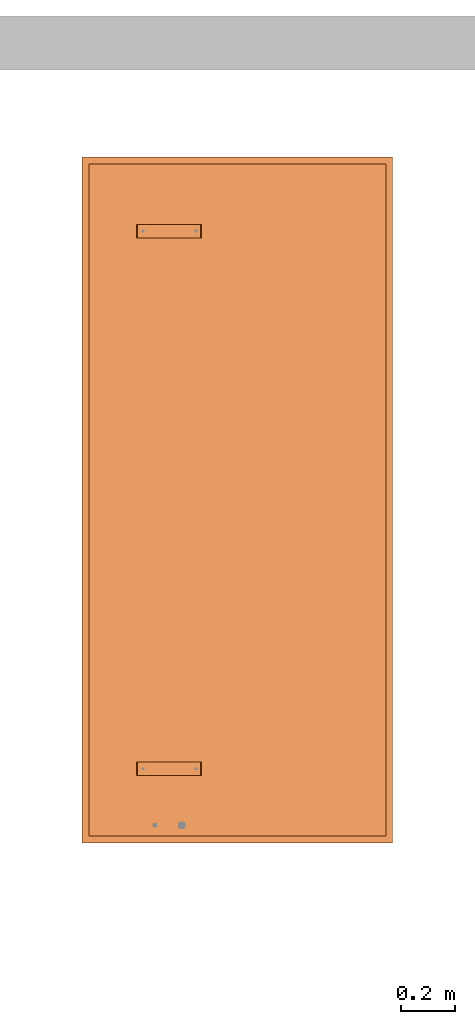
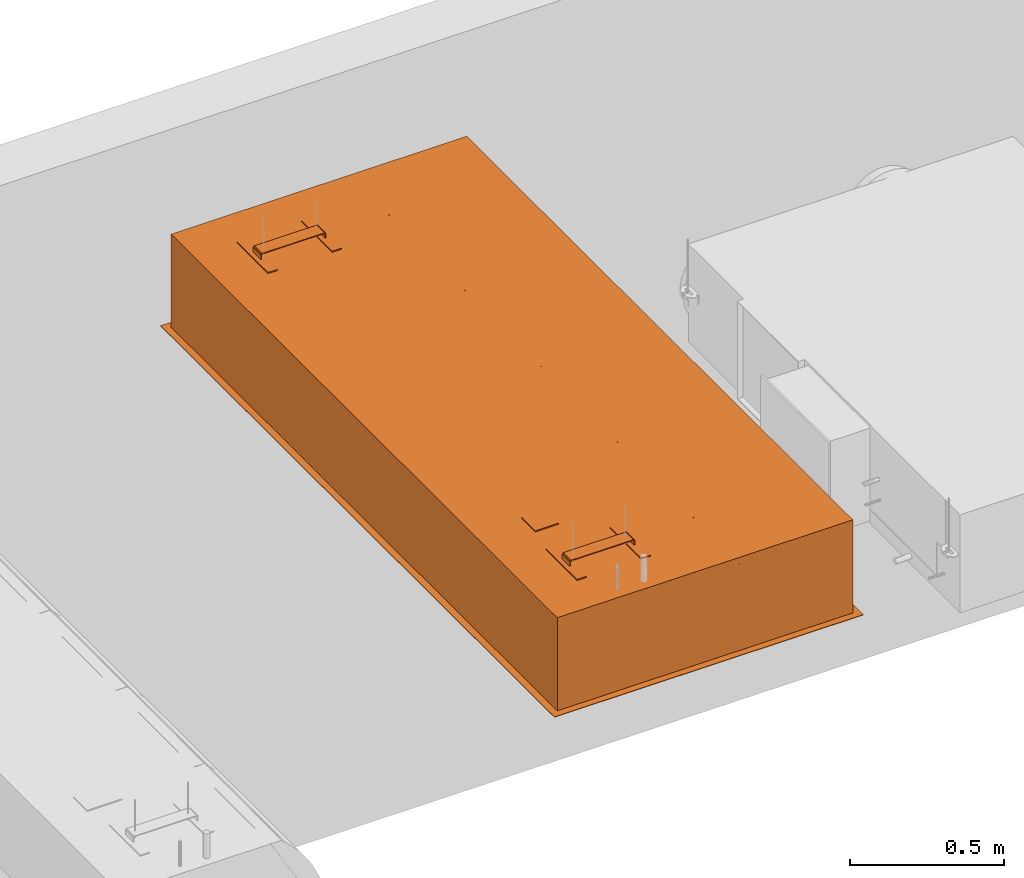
# One storey, part 4 of 5: 1 proxy.
"""IFC2X3 building model written with IfcOpenShell, lengths in millimetres."""

from ifc_helpers import new_model, entity, si_unit, converted_unit, derived_unit, direction, frame, origin, place, context, subcontext, project, spatial, faceted_brep, source, transform, mapped, material, material_list, type_object, type_shapes, element, save


model = new_model("IFC2X3")

# Units and contexts
model_context = context("Model", 3, precision=0.01, world=origin(), true_north=direction((6.12303176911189e-17, 1.0)))
body_context = subcontext(model_context, "Body", "Model", "MODEL_VIEW")
ifc_project = project(units=[si_unit("LENGTHUNIT", "METRE", prefix="MILLI"), si_unit("AREAUNIT", "SQUARE_METRE"), si_unit("VOLUMEUNIT", "CUBIC_METRE"), converted_unit("PLANEANGLEUNIT", "DEGREE", entity("IfcRatioMeasure", 0.0174532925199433), si_unit("PLANEANGLEUNIT", "RADIAN"), dimensions=[0, 0, 0, 0, 0, 0, 0]), si_unit("MASSUNIT", "GRAM", prefix="KILO"), derived_unit("MASSDENSITYUNIT", [(si_unit("MASSUNIT", "GRAM", prefix="KILO"), 1), (si_unit("LENGTHUNIT", "METRE"), -3)]), si_unit("TIMEUNIT", "SECOND"), si_unit("FREQUENCYUNIT", "HERTZ"), si_unit("THERMODYNAMICTEMPERATUREUNIT", "DEGREE_CELSIUS"), derived_unit("THERMALTRANSMITTANCEUNIT", [(si_unit("MASSUNIT", "GRAM", prefix="KILO"), 1), (si_unit("THERMODYNAMICTEMPERATUREUNIT", "KELVIN"), -1), (si_unit("TIMEUNIT", "SECOND"), -3)]), derived_unit("VOLUMETRICFLOWRATEUNIT", [(si_unit("LENGTHUNIT", "METRE"), 3), (si_unit("TIMEUNIT", "SECOND"), -1)]), si_unit("ELECTRICCURRENTUNIT", "AMPERE"), si_unit("ELECTRICVOLTAGEUNIT", "VOLT"), si_unit("POWERUNIT", "WATT"), si_unit("FORCEUNIT", "NEWTON", prefix="KILO"), si_unit("ILLUMINANCEUNIT", "LUX"), si_unit("LUMINOUSFLUXUNIT", "LUMEN"), si_unit("LUMINOUSINTENSITYUNIT", "CANDELA"), derived_unit("USERDEFINED", [(si_unit("MASSUNIT", "GRAM", prefix="KILO"), -1), (si_unit("LENGTHUNIT", "METRE"), -2), (si_unit("TIMEUNIT", "SECOND"), 3), (si_unit("LUMINOUSFLUXUNIT", "LUMEN"), 1)]), derived_unit("LINEARVELOCITYUNIT", [(si_unit("LENGTHUNIT", "METRE"), 1), (si_unit("TIMEUNIT", "SECOND"), -1)]), si_unit("PRESSUREUNIT", "PASCAL"), derived_unit("USERDEFINED", [(si_unit("LENGTHUNIT", "METRE"), -2), (si_unit("MASSUNIT", "GRAM", prefix="KILO"), 1), (si_unit("TIMEUNIT", "SECOND"), -2)])], contexts=[model_context])

# Site, building, storey
site_placement = place(None, origin())
site = spatial("IfcSite", under=ifc_project, at=site_placement, Name="Default", CompositionType="ELEMENT")
building_placement = place(site_placement, origin())
building = spatial("IfcBuilding", under=site, at=building_placement, CompositionType="ELEMENT")
storey_placement = place(building_placement, origin())
storey = spatial("IfcBuildingStorey", under=building, at=storey_placement, Name="Level 1", CompositionType="ELEMENT", Elevation=0.0)

# Proxy
ifc_material_1 = material(Name="RSen_x_rgb 165 165 165 T00 white aluminium_gen")
ifc_material_2 = material(Name="RSen_x_rgb 0 0 0 T30 aluminium rectangular canvas_gen")
ifc_material_list_1 = material_list([ifc_material_1, ifc_material_2])
ifc_material_list_2 = material_list([ifc_material_1, ifc_material_2])
building_element_proxy_type = type_object("IfcBuildingElementProxyType", Name="standard", PredefinedType="NOTDEFINED", material=ifc_material_list_2)
shared_shape = source(origin(), body_context, "Body", "Brep", [
    faceted_brep([(-1245.0, -547.500000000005, -78.0), (1245.0, -547.500000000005, -78.0), (1245.0, -279.740960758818, -78.0), (-1245.0, -279.740960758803, -78.0), (1245.0, -547.500000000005, -68.0), (1245.0, -285.514463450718, -68.0), (-1245.0, -547.500000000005, -68.0), (-1245.0, -285.514463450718, -68.0), (-1250.0, -552.500000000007, -368.0), (-1250.0, -552.500000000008, -68.0), (-1250.0, -285.514463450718, -68.0), (-1250.0, -112.309382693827, -368.0), (1250.0, -552.500000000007, -368.0), (1250.0, -112.309382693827, -368.0), (1250.0, -285.514463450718, -68.0), (1250.0, -552.500000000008, -68.0)], [[[0, 1, 2, 3]], [[2, 1, 4, 5]], [[1, 0, 6, 4]], [[0, 3, 7, 6]], [[8, 9, 10, 11]], [[12, 13, 14, 15]], [[9, 8, 12, 15]], [[10, 9, 15, 14, 5, 4, 6, 7]], [[11, 10, 7, 3, 2, 5, 14, 13]], [[8, 11, 13, 12]]]),
    faceted_brep([(-1275.0, 577.499999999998, 0.0), (1275.0, 577.499999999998, 0.0), (1275.0, -577.499999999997, 0.0), (-1275.0, -577.499999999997, 0.0), (1250.0, 552.499999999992, 0.0), (-1250.0, 552.499999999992, 0.0), (-1250.0, -552.500000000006, 0.0), (1250.0, -552.500000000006, 0.0), (-1275.0, 577.499999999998, 2.0), (-1275.0, -577.499999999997, 2.0), (1275.0, -577.499999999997, 2.0), (1275.0, 577.499999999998, 2.0), (-1245.0, 524.0, 2.0), (1245.0, 524.0, 2.0), (1245.0, 399.499999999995, 2.0), (-1245.0, 399.499999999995, 2.0), (-1245.0, -192.500000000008, 2.0), (1245.0, -192.500000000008, 2.0), (1245.0, -547.500000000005, 2.0), (-1245.0, -547.500000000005, 2.0), (-1250.0, 552.499999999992, -68.0), (1250.0, 552.499999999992, -68.0), (1250.0, -552.500000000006, -68.0), (-1250.0, -552.500000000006, -68.0), (1245.0, 524.0, -68.0), (-1245.0, 524.0, -68.0), (-1245.0, 399.499999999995, -68.0), (1245.0, 399.499999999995, -68.0), (1245.0, -192.500000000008, -68.0), (-1245.0, -192.500000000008, -68.0), (-1245.0, -547.500000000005, -68.0), (1245.0, -547.500000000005, -68.0)], [[[0, 1, 2, 3], [4, 5, 6, 7]], [[8, 9, 10, 11], [12, 13, 14, 15], [16, 17, 18, 19]], [[1, 0, 8, 11]], [[2, 1, 11, 10]], [[3, 2, 10, 9]], [[0, 3, 9, 8]], [[20, 21, 22, 23], [24, 25, 26, 27], [28, 29, 30, 31]], [[21, 20, 5, 4]], [[22, 21, 4, 7]], [[23, 22, 7, 6]], [[20, 23, 6, 5]], [[12, 25, 24, 13]], [[13, 24, 27, 14]], [[14, 27, 26, 15]], [[25, 12, 15, 26]], [[16, 29, 28, 17]], [[17, 28, 31, 18]], [[18, 31, 30, 19]], [[29, 16, 19, 30]]]),
    faceted_brep([(-1250.0, -112.294919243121, -368.0), (-1250.0, -285.514463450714, -68.0), (-1250.0, 552.499999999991, -68.0), (-1250.0, 552.499999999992, -368.0), (1250.0, -112.294919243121, -368.0), (1250.0, 552.499999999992, -368.0), (1250.0, 552.499999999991, -68.0), (1250.0, -285.514463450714, -68.0), (-1245.0, 524.0, -78.0), (-1245.0, 399.499999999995, -78.0), (1245.0, 399.499999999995, -78.0), (1245.0, 524.0, -78.0), (1245.0, 524.0, -68.0), (-1245.0, 524.0, -68.0), (1245.0, 399.499999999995, -68.0), (-1245.0, 399.499999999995, -68.0), (1245.0, -285.514463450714, -68.0), (1245.0, -279.74047864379, -78.0), (-1245.0, -279.740478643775, -78.0), (-1245.0, -285.514463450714, -68.0), (-1245.0, -192.500000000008, -68.0), (1245.0, -192.500000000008, -68.0), (-1245.0, -192.500000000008, -78.0), (1245.0, -192.500000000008, -78.0)], [[[0, 1, 2, 3]], [[4, 5, 6, 7]], [[3, 2, 6, 5]], [[0, 3, 5, 4]], [[8, 9, 10, 11]], [[8, 11, 12, 13]], [[11, 10, 14, 12]], [[10, 9, 15, 14]], [[9, 8, 13, 15]], [[1, 0, 4, 7, 16, 17, 18, 19]], [[2, 1, 19, 20, 21, 16, 7, 6], [13, 12, 14, 15]], [[22, 23, 21, 20]], [[23, 17, 16, 21]], [[18, 22, 20, 19]], [[23, 22, 18, 17]]]),
    faceted_brep([(1250.0, 524.0, -3.0), (1250.0, 399.499999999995, -3.0), (-1250.0, 399.499999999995, -3.0), (-1250.0, 524.0, -3.0), (1250.0, 524.0, 2.0), (1250.0, 399.499999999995, 2.0), (-1250.0, 399.499999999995, 2.0), (-1250.0, 524.0, 2.0)], [[[0, 1, 2, 3]], [[1, 0, 4, 5]], [[2, 1, 5, 6]], [[3, 2, 6, 7]], [[0, 3, 7, 4]], [[4, 7, 6, 5]]]),
    faceted_brep([(-1250.0, -192.500000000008, 2.0), (-1250.0, -552.500000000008, 2.0), (1250.0, -552.500000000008, 2.0), (1250.0, -192.500000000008, 2.0), (1250.0, -192.500000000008, -3.0), (-1250.0, -192.500000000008, -3.0), (1250.0, -552.500000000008, -3.0), (-1250.0, -552.500000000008, -3.0)], [[[0, 1, 2, 3]], [[4, 5, 0, 3]], [[6, 4, 3, 2]], [[7, 6, 2, 1]], [[5, 7, 1, 0]], [[5, 4, 6, 7]]]),
    faceted_brep([(705.0, 285.099999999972, -372.609846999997), (705.0, 372.099999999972, -372.609846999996), (795.0, 372.099999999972, -372.609846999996), (795.0, 285.099999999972, -372.609846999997), (705.0, 285.099999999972, -368.0), (795.0, 285.099999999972, -368.0), (795.0, 372.099999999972, -368.0), (705.0, 372.099999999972, -368.0)], [[[0, 1, 2, 3]], [[4, 5, 6, 7]], [[1, 0, 4, 7]], [[2, 1, 7, 6]], [[3, 2, 6, 5]], [[0, 3, 5, 4]]]),
    faceted_brep([(1229.5, 327.937800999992, -272.609846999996), (1222.93834309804, 314.469955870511, -272.609846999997), (1224.43084659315, 310.866733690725, -272.609846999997), (1220.56411290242, 317.564112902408, -272.609846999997), (1224.93991174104, 307.0, -272.609846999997), (1229.5, 281.937800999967, -272.609846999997), (1217.46995587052, 319.938343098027, -272.609846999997), (1213.86673369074, 321.430846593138, -272.609846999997), (1210.0, 321.939911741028, -272.609846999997), (1190.5, 327.937800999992, -272.609846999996), (1206.13326630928, 321.430846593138, -272.609846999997), (1202.53004412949, 319.938343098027, -272.609846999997), (1199.43588709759, 317.564112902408, -272.609846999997), (1197.06165690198, 314.469955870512, -272.609846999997), (1195.56915340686, 310.866733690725, -272.609846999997), (1195.06008825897, 307.0, -272.609846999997), (1190.5, 281.937800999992, -272.609846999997), (1210.0, 292.060088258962, -272.609846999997), (1206.13326630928, 292.569153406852, -272.609846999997), (1202.53004412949, 294.061656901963, -272.609846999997), (1199.43588709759, 296.435887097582, -272.609846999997), (1195.56915340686, 303.133266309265, -272.609846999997), (1197.06165690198, 299.530044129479, -272.609846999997), (1190.5, 231.937800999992, -272.609846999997), (1182.5, 281.937800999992, -272.609846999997), (1182.5, 231.937800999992, -272.609846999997), (1230.0, 231.937800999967, -272.609846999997), (1210.0, 221.94153697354, -272.609846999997), (1206.13284566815, 221.432416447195, -272.609846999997), (1202.52923151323, 219.93975059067, -272.609846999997), (1199.43473788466, 217.565262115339, -272.609846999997), (1197.06024940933, 214.470768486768, -272.609846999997), (1195.56758355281, 210.867154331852, -272.609846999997), (1195.05846302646, 207.0, -272.609846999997), (1190.5, 185.937800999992, -272.609846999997), (1195.56758355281, 203.132845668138, -272.609846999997), (1197.06024940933, 199.529231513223, -272.609846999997), (1199.43473788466, 196.434737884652, -272.609846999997), (1202.52923151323, 194.060249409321, -272.609846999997), (1206.13284566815, 192.567583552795, -272.609846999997), (1210.0, 192.058463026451, -272.609846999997), (1230.0, 185.937800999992, -272.609846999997), (1224.94153697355, 207.0, -272.609846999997), (1224.43241644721, 203.132845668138, -272.609846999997), (1222.93975059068, 199.529231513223, -272.609846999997), (1220.56526211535, 196.434737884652, -272.609846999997), (1217.47076848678, 194.060249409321, -272.609846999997), (1213.86715433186, 192.567583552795, -272.609846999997), (1213.86715433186, 221.432416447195, -272.609846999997), (1217.47076848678, 219.93975059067, -272.609846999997), (1220.56526211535, 217.565262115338, -272.609846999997), (1222.93975059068, 214.470768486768, -272.609846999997), (1224.43241644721, 210.867154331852, -272.609846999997), (1238.0, 281.937800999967, -272.609846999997), (1238.0, 231.937800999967, -272.609846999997), (1224.43084659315, 303.133266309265, -272.609846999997), (1222.93834309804, 299.530044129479, -272.609846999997), (1220.56411290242, 296.435887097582, -272.609846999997), (1217.46995587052, 294.061656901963, -272.609846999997), (1213.86673369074, 292.569153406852, -272.609846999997), (1190.5, 327.937800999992, -368.0), (1197.06165690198, 314.469955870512, -368.0), (1195.56915340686, 310.866733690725, -368.0), (1199.43588709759, 317.564112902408, -368.0), (1195.06008825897, 307.0, -368.0), (1190.5, 281.937800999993, -368.0), (1202.53004412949, 319.938343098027, -368.0), (1206.13326630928, 321.430846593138, -368.0), (1210.0, 321.939911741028, -368.0), (1229.5, 327.937800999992, -368.0), (1213.86673369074, 321.430846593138, -368.0), (1217.46995587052, 319.938343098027, -368.0), (1220.56411290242, 317.564112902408, -368.0), (1222.93834309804, 314.469955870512, -368.0), (1224.43084659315, 310.866733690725, -368.0), (1224.93991174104, 307.0, -368.0), (1229.5, 281.937800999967, -368.0), (1190.5, 231.937800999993, -368.0), (1224.43084659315, 303.133266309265, -368.0), (1222.93834309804, 299.530044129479, -368.0), (1220.56411290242, 296.435887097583, -368.0), (1217.46995587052, 294.061656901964, -368.0), (1213.86673369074, 292.569153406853, -368.0), (1210.0, 292.060088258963, -368.0), (1230.0, 231.937800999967, -368.0), (1238.0, 281.937800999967, -368.0), (1238.0, 231.937800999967, -368.0), (1210.0, 221.94153697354, -368.0), (1213.86715433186, 221.432416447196, -368.0), (1217.47076848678, 219.93975059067, -368.0), (1220.56526211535, 217.565262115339, -368.0), (1222.93975059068, 214.470768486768, -368.0), (1224.43241644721, 210.867154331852, -368.0), (1224.94153697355, 207.0, -368.0), (1230.0, 185.937800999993, -368.0), (1224.43241644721, 203.132845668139, -368.0), (1222.93975059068, 199.529231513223, -368.0), (1220.56526211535, 196.434737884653, -368.0), (1217.47076848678, 194.060249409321, -368.0), (1213.86715433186, 192.567583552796, -368.0), (1210.0, 192.058463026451, -368.0), (1190.5, 185.937800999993, -368.0), (1195.05846302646, 207.0, -368.0), (1195.56758355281, 203.132845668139, -368.0), (1197.06024940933, 199.529231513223, -368.0), (1199.43473788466, 196.434737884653, -368.0), (1202.52923151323, 194.060249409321, -368.0), (1206.13284566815, 192.567583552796, -368.0), (1206.13284566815, 221.432416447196, -368.0), (1202.52923151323, 219.93975059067, -368.0), (1199.43473788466, 217.565262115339, -368.0), (1197.06024940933, 214.470768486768, -368.0), (1195.56758355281, 210.867154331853, -368.0), (1206.13326630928, 292.569153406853, -368.0), (1182.5, 281.937800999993, -368.0), (1182.5, 231.937800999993, -368.0), (1195.56915340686, 303.133266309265, -368.0), (1197.06165690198, 299.530044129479, -368.0), (1199.43588709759, 296.435887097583, -368.0), (1202.53004412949, 294.061656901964, -368.0)], [[[0, 1, 2]], [[1, 0, 3]], [[0, 2, 4]], [[0, 4, 5]], [[3, 0, 6]], [[7, 6, 0]], [[0, 8, 7]], [[8, 0, 9]], [[10, 8, 9]], [[11, 10, 9]], [[11, 9, 12]], [[13, 12, 9]], [[14, 13, 9]], [[9, 15, 14]], [[9, 16, 15]], [[5, 17, 16]], [[17, 18, 16]], [[18, 19, 16]], [[19, 20, 16]], [[16, 21, 15]], [[22, 21, 16]], [[22, 16, 20]], [[23, 5, 16]], [[16, 24, 23]], [[25, 23, 24]], [[23, 26, 5]], [[27, 26, 23]], [[27, 23, 28]], [[29, 28, 23]], [[30, 29, 23]], [[31, 30, 23]], [[31, 23, 32]], [[23, 33, 32]], [[33, 23, 34]], [[33, 34, 35]], [[36, 35, 34]], [[36, 34, 37]], [[38, 37, 34]], [[39, 38, 34]], [[40, 39, 34]], [[40, 34, 41]], [[42, 41, 26]], [[41, 42, 43]], [[43, 44, 41]], [[41, 44, 45]], [[45, 46, 41]], [[46, 47, 41]], [[41, 47, 40]], [[27, 48, 26]], [[49, 26, 48]], [[49, 50, 26]], [[50, 51, 26]], [[26, 51, 52]], [[52, 42, 26]], [[53, 5, 26]], [[26, 54, 53]], [[55, 5, 4]], [[5, 55, 56]], [[56, 57, 5]], [[57, 58, 5]], [[58, 59, 5]], [[59, 17, 5]], [[60, 61, 62]], [[61, 60, 63]], [[60, 62, 64]], [[60, 64, 65]], [[66, 63, 60]], [[66, 60, 67]], [[68, 67, 60]], [[60, 69, 68]], [[70, 68, 69]], [[71, 70, 69]], [[72, 71, 69]], [[73, 72, 69]], [[74, 73, 69]], [[69, 75, 74]], [[69, 76, 75]], [[76, 77, 65]], [[76, 78, 75]], [[79, 78, 76]], [[79, 76, 80]], [[81, 80, 76]], [[82, 81, 76]], [[83, 82, 76]], [[84, 77, 76]], [[76, 85, 84]], [[76, 65, 83]], [[86, 84, 85]], [[77, 84, 87]], [[88, 87, 84]], [[89, 88, 84]], [[89, 84, 90]], [[91, 90, 84]], [[91, 84, 92]], [[84, 93, 92]], [[93, 84, 94]], [[93, 94, 95]], [[96, 95, 94]], [[96, 94, 97]], [[98, 97, 94]], [[99, 98, 94]], [[99, 94, 100]], [[101, 100, 94]], [[102, 101, 77]], [[101, 102, 103]], [[103, 104, 101]], [[101, 104, 105]], [[105, 106, 101]], [[107, 100, 101]], [[106, 107, 101]], [[108, 77, 87]], [[108, 109, 77]], [[110, 77, 109]], [[110, 111, 77]], [[77, 111, 112]], [[112, 102, 77]], [[83, 65, 113]], [[114, 65, 77]], [[77, 115, 114]], [[116, 65, 64]], [[65, 116, 117]], [[117, 118, 65]], [[118, 119, 65]], [[119, 113, 65]], [[69, 60, 9, 0]], [[76, 69, 0, 5]], [[85, 76, 5, 53]], [[65, 114, 24, 16]], [[86, 85, 53, 54]], [[84, 86, 54, 26]], [[115, 77, 23, 25]], [[94, 84, 26, 41]], [[101, 94, 41, 34]], [[77, 101, 34, 23]], [[60, 65, 16, 9]], [[114, 115, 25, 24]], [[74, 75, 4, 2]], [[74, 2, 1, 73]], [[71, 72, 3, 6]], [[3, 72, 73, 1]], [[70, 71, 6, 7]], [[70, 7, 8, 68]], [[66, 67, 10, 11]], [[66, 11, 12, 63]], [[62, 61, 13, 14]], [[13, 61, 63, 12]], [[64, 62, 14, 15]], [[68, 8, 10, 67]], [[22, 117, 116, 21]], [[15, 21, 116, 64]], [[18, 113, 119, 19]], [[19, 119, 118, 20]], [[20, 118, 117, 22]], [[18, 17, 83, 113]], [[81, 82, 59, 58]], [[81, 58, 57, 80]], [[78, 79, 56, 55]], [[56, 79, 80, 57]], [[75, 78, 55, 4]], [[83, 17, 59, 82]], [[92, 93, 42, 52]], [[92, 52, 51, 91]], [[89, 90, 50, 49]], [[50, 90, 91, 51]], [[88, 89, 49, 48]], [[88, 48, 27, 87]], [[109, 108, 28, 29]], [[109, 29, 30, 110]], [[112, 111, 31, 32]], [[31, 111, 110, 30]], [[102, 112, 32, 33]], [[87, 27, 28, 108]], [[36, 104, 103, 35]], [[33, 35, 103, 102]], [[39, 107, 106, 38]], [[38, 106, 105, 37]], [[37, 105, 104, 36]], [[39, 40, 100, 107]], [[98, 99, 47, 46]], [[98, 46, 45, 97]], [[95, 96, 44, 43]], [[44, 96, 97, 45]], [[93, 95, 43, 42]], [[100, 40, 47, 99]]]),
    faceted_brep([(-1025.0, 372.899999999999, -368.0), (-1025.0, 375.899999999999, -368.0), (-1025.0, 375.900000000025, -390.0), (-1025.0, 374.435533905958, -393.535533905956), (-1025.0, 370.900000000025, -395.0), (-1025.0, 137.899999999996, -395.0), (-1025.0, 134.364466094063, -393.535533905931), (-1025.0, 132.899999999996, -390.0), (-1025.0, 132.899999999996, -368.0), (-1025.0, 135.899999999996, -368.0), (-1025.0, 135.899999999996, -390.0), (-1025.0, 136.485786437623, -391.414213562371), (-1025.0, 137.899999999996, -392.0), (-1025.0, 370.900000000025, -392.0), (-1025.0, 372.314213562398, -391.414213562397), (-1025.0, 372.900000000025, -390.0), (-975.0, 370.900000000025, -395.0), (-975.0, 374.435533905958, -393.535533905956), (-975.0, 375.899999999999, -390.0), (-975.0, 375.899999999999, -368.0), (-975.0, 372.899999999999, -368.0), (-975.0, 372.900000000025, -390.0), (-975.0, 372.314213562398, -391.414213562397), (-975.0, 370.900000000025, -392.0), (-975.0, 137.899999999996, -392.0), (-975.0, 136.485786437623, -391.414213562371), (-975.0, 135.899999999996, -390.0), (-975.0, 135.899999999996, -368.0), (-975.0, 132.899999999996, -368.0), (-975.0, 132.899999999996, -390.0), (-975.0, 134.364466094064, -393.535533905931), (-975.0, 137.899999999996, -395.0), (-987.345039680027, 135.899999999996, -390.0), (-1000.0, 135.899999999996, -390.0), (-1012.65495989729, 135.899999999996, -390.0), (-1013.76792640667, 136.485786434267, -391.414213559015), (-1003.64274336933, 136.664523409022, -391.572767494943), (-999.690080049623, 137.899999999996, -392.0), (-993.51756006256, 136.485786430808, -391.414213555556), (-987.345039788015, 137.899999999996, -392.0), (-1012.654960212, 137.899999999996, -392.0), (-987.345040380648, 370.900000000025, -392.0), (-1000.0, 370.900000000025, -392.0), (-1012.65496085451, 370.900000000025, -392.0), (-1013.76792631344, 372.314213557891, -391.414213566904), (-1003.64274316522, 372.47276749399, -391.235476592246), (-999.690080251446, 372.900000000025, -390.0), (-993.517559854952, 372.314213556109, -391.414213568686), (-987.345039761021, 372.900000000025, -390.0), (-1012.65496023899, 372.900000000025, -390.0)], [[[0, 1, 2, 3, 4, 5, 6, 7, 8, 9, 10, 11, 12, 13, 14, 15]], [[16, 17, 18, 19, 20, 21, 22, 23, 24, 25, 26, 27, 28, 29, 30, 31]], [[2, 18, 17, 3]], [[17, 16, 4, 3]], [[5, 4, 16, 31]], [[5, 31, 30, 6]], [[30, 29, 7, 6]], [[8, 7, 29, 28]], [[9, 8, 28, 27]], [[1, 0, 20, 19]], [[10, 9, 27, 26, 32, 33, 34]], [[35, 34, 36]], [[37, 38, 39]], [[39, 38, 25]], [[35, 40, 12]], [[35, 11, 10]], [[32, 25, 38]], [[36, 34, 33]], [[38, 37, 36]], [[10, 34, 35]], [[32, 26, 25]], [[25, 24, 39]], [[11, 35, 12]], [[32, 38, 33]], [[36, 37, 40]], [[38, 36, 33]], [[35, 36, 40]], [[12, 40, 37, 39, 24, 23, 41, 42, 43, 13]], [[44, 43, 45]], [[46, 47, 22, 48]], [[44, 49, 15]], [[44, 14, 13]], [[41, 23, 22]], [[41, 22, 47, 42]], [[13, 43, 44]], [[45, 43, 42]], [[47, 46, 45]], [[22, 21, 48]], [[14, 44, 15]], [[45, 46, 49]], [[47, 45, 42]], [[44, 45, 49]], [[0, 15, 49, 46, 48, 21, 20]], [[2, 1, 19, 18]]]),
    faceted_brep([(975.0, 372.899999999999, -368.0), (975.0, 375.899999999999, -368.0), (975.0, 375.899999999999, -390.0), (975.0, 374.435533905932, -393.53553390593), (975.0, 370.899999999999, -395.0), (975.0, 137.899999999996, -395.0), (975.0, 134.364466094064, -393.535533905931), (975.0, 132.899999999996, -390.0), (975.0, 132.899999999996, -368.0), (975.0, 135.899999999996, -368.0), (975.0, 135.899999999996, -390.0), (975.0, 136.485786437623, -391.414213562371), (975.0, 137.899999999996, -392.0), (975.0, 370.899999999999, -392.0), (975.0, 372.314213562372, -391.41421356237), (975.0, 372.899999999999, -390.0), (1025.0, 370.899999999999, -395.0), (1025.0, 374.435533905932, -393.53553390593), (1025.0, 375.899999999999, -390.0), (1025.0, 375.899999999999, -368.0), (1025.0, 372.899999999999, -368.0), (1025.0, 372.899999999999, -390.0), (1025.0, 372.314213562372, -391.41421356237), (1025.0, 370.899999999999, -392.0), (1025.0, 137.899999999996, -392.0), (1025.0, 136.485786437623, -391.414213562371), (1025.0, 135.899999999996, -390.0), (1025.0, 135.899999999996, -368.0), (1025.0, 132.899999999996, -368.0), (1025.0, 132.899999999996, -390.0), (1025.0, 134.364466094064, -393.535533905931), (1025.0, 137.899999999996, -395.0), (1012.65496031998, 135.899999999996, -390.0), (1000.0, 135.899999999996, -390.0), (987.345040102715, 135.899999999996, -390.0), (986.232073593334, 136.485786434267, -391.414213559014), (996.357256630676, 136.664523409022, -391.572767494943), (1000.30991977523, 137.899999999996, -392.0), (1006.48243993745, 136.485786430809, -391.414213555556), (1012.65496012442, 137.899999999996, -392.0), (987.345039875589, 137.899999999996, -392.0), (1012.65495961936, 370.899999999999, -392.0), (1000.0, 370.899999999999, -392.0), (987.345039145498, 370.899999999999, -392.0), (986.232073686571, 372.314213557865, -391.414213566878), (996.357256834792, 372.472767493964, -391.235476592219), (1000.30991974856, 372.899999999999, -390.0), (1006.48244014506, 372.314213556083, -391.41421356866), (1012.65496023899, 372.899999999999, -390.0), (987.345039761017, 372.899999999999, -390.0)], [[[0, 1, 2, 3, 4, 5, 6, 7, 8, 9, 10, 11, 12, 13, 14, 15]], [[16, 17, 18, 19, 20, 21, 22, 23, 24, 25, 26, 27, 28, 29, 30, 31]], [[2, 18, 17, 3]], [[17, 16, 4, 3]], [[5, 4, 16, 31]], [[5, 31, 30, 6]], [[30, 29, 7, 6]], [[8, 7, 29, 28]], [[9, 8, 28, 27]], [[1, 0, 20, 19]], [[10, 9, 27, 26, 32, 33, 34]], [[35, 34, 36]], [[37, 38, 25, 39]], [[35, 40, 12]], [[35, 11, 10]], [[32, 25, 38]], [[10, 34, 35]], [[36, 34, 33]], [[38, 37, 36]], [[32, 26, 25]], [[25, 24, 39]], [[11, 35, 12]], [[32, 38, 33]], [[36, 37, 40]], [[38, 36, 33]], [[35, 36, 40]], [[12, 40, 37, 39, 24, 23, 41, 42, 43, 13]], [[44, 43, 45]], [[46, 47, 22, 48]], [[44, 49, 15]], [[44, 14, 13]], [[41, 23, 22]], [[41, 22, 47, 42]], [[13, 43, 44]], [[45, 43, 42]], [[47, 46, 45]], [[22, 21, 48]], [[14, 44, 15]], [[45, 46, 49]], [[47, 45, 42]], [[44, 45, 49]], [[0, 15, 49, 46, 48, 21, 20]], [[2, 1, 19, 18]]]),
    faceted_brep([(-1100.0, 392.399999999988, -372.609846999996), (-900.0, 392.399999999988, -372.609846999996), (-900.0, 357.399999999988, -372.609846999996), (-1100.0, 357.399999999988, -372.609846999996), (-1100.0, 392.399999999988, -368.0), (-900.0, 392.399999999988, -368.0), (-900.0, 357.399999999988, -368.0), (-1100.0, 357.399999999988, -368.0)], [[[0, 1, 2, 3]], [[1, 0, 4, 5]], [[2, 1, 5, 6]], [[3, 2, 6, 7]], [[0, 3, 7, 4]], [[4, 7, 6, 5]]]),
    faceted_brep([(900.0, 392.399999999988, -368.0), (900.0, 357.399999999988, -368.0), (1100.0, 357.399999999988, -368.0), (1100.0, 392.399999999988, -368.0), (1100.0, 392.399999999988, -372.609846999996), (900.0, 392.399999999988, -372.609846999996), (1100.0, 357.399999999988, -372.609846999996), (900.0, 357.399999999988, -372.609846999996)], [[[0, 1, 2, 3]], [[4, 5, 0, 3]], [[6, 4, 3, 2]], [[7, 6, 2, 1]], [[5, 7, 1, 0]], [[5, 4, 6, 7]]]),
    faceted_brep([(1100.0, 152.399999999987, -372.609846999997), (900.0, 152.399999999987, -372.609846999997), (900.0, 152.399999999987, -368.0), (1100.0, 152.399999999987, -368.0), (1100.0, 117.399999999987, -372.609846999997), (1100.0, 117.399999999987, -368.0), (900.0, 117.399999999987, -372.609846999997), (900.0, 117.399999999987, -368.0)], [[[0, 1, 2, 3]], [[4, 0, 3, 5]], [[6, 4, 5, 7]], [[1, 6, 7, 2]], [[2, 7, 5, 3]], [[1, 0, 4, 6]]]),
    faceted_brep([(-900.0, 152.399999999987, -372.609846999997), (-1100.0, 152.399999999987, -372.609846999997), (-1100.0, 152.399999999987, -368.0), (-900.0, 152.399999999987, -368.0), (-900.0, 117.499999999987, -372.609846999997), (-900.0, 117.499999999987, -368.0), (-1100.0, 117.499999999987, -372.609846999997), (-1100.0, 117.499999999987, -368.0)], [[[0, 1, 2, 3]], [[4, 0, 3, 5]], [[6, 4, 5, 7]], [[1, 6, 7, 2]], [[2, 7, 5, 3]], [[1, 0, 4, 6]]]),
])
type_shapes(building_element_proxy_type, [shared_shape])
proxy_placement = place(storey_placement, frame((13507.9008751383, -15719.7606358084, 2500.0), z_axis=(0.0, -1.74532925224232e-05, -1.0), x_axis=(0.0, -1.0, 1.74532925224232e-05)))
element("IfcBuildingElementProxy", 1, at=proxy_placement, inside=storey, type_object=building_element_proxy_type, material=ifc_material_list_1, Name="RSen_57_ME_FB_SOg - cyvl250dk250csc - SH_daikin_tbq:standard", ObjectType="standard", context=body_context, shape_type="MappedRepresentation", body=[
    mapped(shared_shape, transform((0.0, 0.0, 0.0), scale=1.0)),
])

save(model, "model.ifc")
